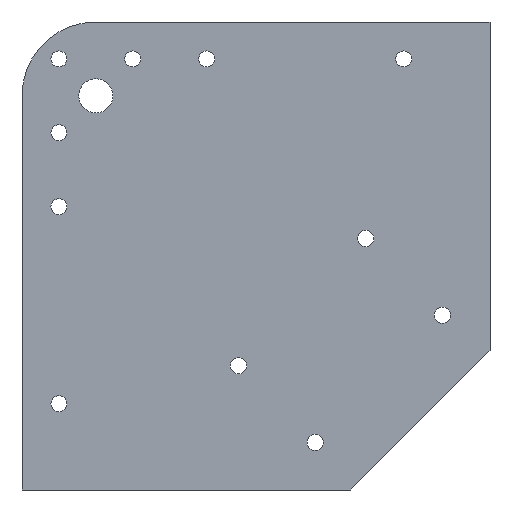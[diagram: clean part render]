
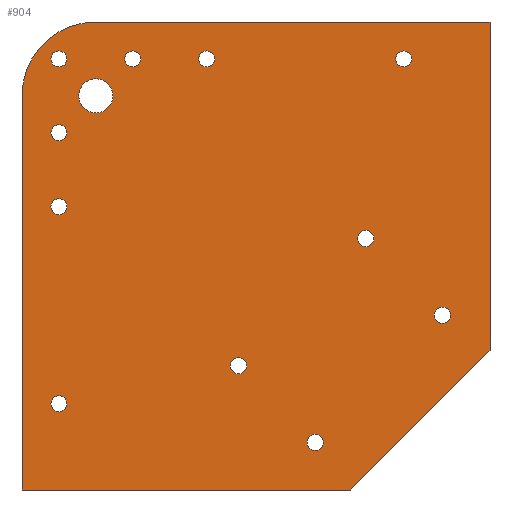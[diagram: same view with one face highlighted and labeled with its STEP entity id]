
A CAD part, front view. The second image highlights one B-rep face of the part: STEP entity #904.
In plain terms, the highlighted planar face has unit normal (0, -1, 0).
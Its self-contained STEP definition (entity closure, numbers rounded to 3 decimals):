
#34=LINE('',#1317,#62);
#36=LINE('',#1321,#64);
#37=LINE('',#1326,#65);
#38=LINE('',#1328,#66);
#39=LINE('',#1329,#67);
#62=VECTOR('',#1151,1000.);
#64=VECTOR('',#1155,1000.);
#65=VECTOR('',#1158,1000.);
#66=VECTOR('',#1159,1000.);
#67=VECTOR('',#1160,1000.);
#89=PLANE('',#986);
#175=ORIENTED_EDGE('',*,*,#231,.T.);
#176=ORIENTED_EDGE('',*,*,#233,.T.);
#177=ORIENTED_EDGE('',*,*,#235,.T.);
#178=ORIENTED_EDGE('',*,*,#237,.T.);
#179=ORIENTED_EDGE('',*,*,#239,.T.);
#180=ORIENTED_EDGE('',*,*,#244,.T.);
#181=ORIENTED_EDGE('',*,*,#248,.T.);
#182=ORIENTED_EDGE('',*,*,#252,.T.);
#183=ORIENTED_EDGE('',*,*,#256,.T.);
#184=ORIENTED_EDGE('',*,*,#260,.T.);
#185=ORIENTED_EDGE('',*,*,#264,.T.);
#186=ORIENTED_EDGE('',*,*,#268,.T.);
#187=ORIENTED_EDGE('',*,*,#285,.T.);
#188=ORIENTED_EDGE('',*,*,#286,.T.);
#189=ORIENTED_EDGE('',*,*,#287,.T.);
#190=ORIENTED_EDGE('',*,*,#288,.T.);
#191=ORIENTED_EDGE('',*,*,#283,.T.);
#192=ORIENTED_EDGE('',*,*,#289,.T.);
#231=EDGE_CURVE('',#299,#299,#357,.T.);
#233=EDGE_CURVE('',#301,#301,#359,.T.);
#235=EDGE_CURVE('',#303,#303,#361,.T.);
#237=EDGE_CURVE('',#305,#305,#363,.T.);
#239=EDGE_CURVE('',#307,#307,#365,.T.);
#244=EDGE_CURVE('',#312,#312,#370,.T.);
#248=EDGE_CURVE('',#316,#316,#374,.T.);
#252=EDGE_CURVE('',#320,#320,#378,.T.);
#256=EDGE_CURVE('',#324,#324,#382,.T.);
#260=EDGE_CURVE('',#328,#328,#386,.T.);
#264=EDGE_CURVE('',#332,#332,#390,.T.);
#268=EDGE_CURVE('',#336,#336,#394,.T.);
#283=EDGE_CURVE('',#348,#347,#34,.T.);
#285=EDGE_CURVE('',#349,#350,#36,.T.);
#286=EDGE_CURVE('',#350,#351,#395,.F.);
#287=EDGE_CURVE('',#351,#352,#37,.T.);
#288=EDGE_CURVE('',#352,#348,#38,.T.);
#289=EDGE_CURVE('',#347,#349,#39,.T.);
#299=VERTEX_POINT('',#1186);
#301=VERTEX_POINT('',#1191);
#303=VERTEX_POINT('',#1196);
#305=VERTEX_POINT('',#1201);
#307=VERTEX_POINT('',#1206);
#312=VERTEX_POINT('',#1219);
#316=VERTEX_POINT('',#1230);
#320=VERTEX_POINT('',#1241);
#324=VERTEX_POINT('',#1252);
#328=VERTEX_POINT('',#1263);
#332=VERTEX_POINT('',#1274);
#336=VERTEX_POINT('',#1285);
#347=VERTEX_POINT('',#1316);
#348=VERTEX_POINT('',#1318);
#349=VERTEX_POINT('',#1322);
#350=VERTEX_POINT('',#1323);
#351=VERTEX_POINT('',#1325);
#352=VERTEX_POINT('',#1327);
#357=CIRCLE('',#917,3.324);
#359=CIRCLE('',#920,3.324);
#361=CIRCLE('',#923,3.324);
#363=CIRCLE('',#926,3.324);
#365=CIRCLE('',#929,6.918);
#370=CIRCLE('',#937,3.25);
#374=CIRCLE('',#944,3.25);
#378=CIRCLE('',#951,3.25);
#382=CIRCLE('',#958,3.25);
#386=CIRCLE('',#965,3.25);
#390=CIRCLE('',#972,3.25);
#394=CIRCLE('',#979,3.25);
#395=CIRCLE('',#987,30.);
#459=EDGE_LOOP('',(#175));
#460=EDGE_LOOP('',(#176));
#461=EDGE_LOOP('',(#177));
#462=EDGE_LOOP('',(#178));
#463=EDGE_LOOP('',(#179));
#464=EDGE_LOOP('',(#180));
#465=EDGE_LOOP('',(#181));
#466=EDGE_LOOP('',(#182));
#467=EDGE_LOOP('',(#183));
#468=EDGE_LOOP('',(#184));
#469=EDGE_LOOP('',(#185));
#470=EDGE_LOOP('',(#186));
#471=EDGE_LOOP('',(#187,#188,#189,#190,#191,#192));
#549=FACE_BOUND('',#459,.T.);
#550=FACE_BOUND('',#460,.T.);
#551=FACE_BOUND('',#461,.T.);
#552=FACE_BOUND('',#462,.T.);
#553=FACE_BOUND('',#463,.T.);
#554=FACE_BOUND('',#464,.T.);
#555=FACE_BOUND('',#465,.T.);
#556=FACE_BOUND('',#466,.T.);
#557=FACE_BOUND('',#467,.T.);
#558=FACE_BOUND('',#468,.T.);
#559=FACE_BOUND('',#469,.T.);
#560=FACE_BOUND('',#470,.T.);
#561=FACE_BOUND('',#471,.T.);
#904=ADVANCED_FACE('',(#549,#550,#551,#552,#553,#554,#555,#556,#557,#558,
#559,#560,#561),#89,.F.);
#917=AXIS2_PLACEMENT_3D('',#1185,#999,#1000);
#920=AXIS2_PLACEMENT_3D('',#1190,#1005,#1006);
#923=AXIS2_PLACEMENT_3D('',#1195,#1011,#1012);
#926=AXIS2_PLACEMENT_3D('',#1200,#1017,#1018);
#929=AXIS2_PLACEMENT_3D('',#1205,#1023,#1024);
#937=AXIS2_PLACEMENT_3D('',#1218,#1039,#1040);
#944=AXIS2_PLACEMENT_3D('',#1229,#1053,#1054);
#951=AXIS2_PLACEMENT_3D('',#1240,#1067,#1068);
#958=AXIS2_PLACEMENT_3D('',#1251,#1081,#1082);
#965=AXIS2_PLACEMENT_3D('',#1262,#1095,#1096);
#972=AXIS2_PLACEMENT_3D('',#1273,#1109,#1110);
#979=AXIS2_PLACEMENT_3D('',#1284,#1123,#1124);
#986=AXIS2_PLACEMENT_3D('',#1320,#1153,#1154);
#987=AXIS2_PLACEMENT_3D('',#1324,#1156,#1157);
#999=DIRECTION('',(0.,1.,0.));
#1000=DIRECTION('',(1.,0.,0.));
#1005=DIRECTION('',(0.,1.,0.));
#1006=DIRECTION('',(1.,0.,0.));
#1011=DIRECTION('',(0.,1.,0.));
#1012=DIRECTION('',(1.,0.,0.));
#1017=DIRECTION('',(0.,1.,0.));
#1018=DIRECTION('',(1.,0.,0.));
#1023=DIRECTION('',(0.,1.,0.));
#1024=DIRECTION('',(1.,0.,0.));
#1039=DIRECTION('',(0.,1.,0.));
#1040=DIRECTION('',(1.,0.,0.));
#1053=DIRECTION('',(0.,1.,0.));
#1054=DIRECTION('',(1.,0.,0.));
#1067=DIRECTION('',(0.,1.,0.));
#1068=DIRECTION('',(1.,0.,0.));
#1081=DIRECTION('',(0.,1.,0.));
#1082=DIRECTION('',(1.,0.,0.));
#1095=DIRECTION('',(0.,1.,0.));
#1096=DIRECTION('',(1.,0.,0.));
#1109=DIRECTION('',(0.,1.,0.));
#1110=DIRECTION('',(1.,0.,0.));
#1123=DIRECTION('',(0.,1.,0.));
#1124=DIRECTION('',(1.,0.,0.));
#1151=DIRECTION('',(0.707,0.,0.707));
#1153=DIRECTION('',(0.,1.,0.));
#1154=DIRECTION('',(0.,0.,1.));
#1155=DIRECTION('',(-1.,0.,0.));
#1156=DIRECTION('',(0.,1.,0.));
#1157=DIRECTION('',(0.,0.,1.));
#1158=DIRECTION('',(0.,0.,-1.));
#1159=DIRECTION('',(1.,0.,0.));
#1160=DIRECTION('',(0.,0.,1.));
#1185=CARTESIAN_POINT('',(24.032,0.,-75.651));
#1186=CARTESIAN_POINT('',(20.708,0.,-75.651));
#1190=CARTESIAN_POINT('',(-7.081,0.,-44.538));
#1191=CARTESIAN_POINT('',(-10.404,0.,-44.538));
#1195=CARTESIAN_POINT('',(44.538,0.,7.081));
#1196=CARTESIAN_POINT('',(41.214,0.,7.081));
#1200=CARTESIAN_POINT('',(75.651,0.,-24.032));
#1201=CARTESIAN_POINT('',(72.327,0.,-24.032));
#1205=CARTESIAN_POINT('',(-65.,0.,65.));
#1206=CARTESIAN_POINT('',(-71.918,0.,65.));
#1218=CARTESIAN_POINT('',(-80.,0.,20.));
#1219=CARTESIAN_POINT('',(-83.25,0.,20.));
#1229=CARTESIAN_POINT('',(60.,0.,80.));
#1230=CARTESIAN_POINT('',(56.75,0.,80.));
#1240=CARTESIAN_POINT('',(-50.,0.,80.));
#1241=CARTESIAN_POINT('',(-53.25,0.,80.));
#1251=CARTESIAN_POINT('',(-80.,0.,80.));
#1252=CARTESIAN_POINT('',(-83.25,0.,80.));
#1262=CARTESIAN_POINT('',(-20.,0.,80.));
#1263=CARTESIAN_POINT('',(-23.25,0.,80.));
#1273=CARTESIAN_POINT('',(-80.,0.,50.));
#1274=CARTESIAN_POINT('',(-83.25,0.,50.));
#1284=CARTESIAN_POINT('',(-80.,0.,-60.));
#1285=CARTESIAN_POINT('',(-83.25,0.,-60.));
#1316=CARTESIAN_POINT('',(95.,0.,-38.482));
#1317=CARTESIAN_POINT('',(80.871,0.,-52.612));
#1318=CARTESIAN_POINT('',(38.482,0.,-95.));
#1320=CARTESIAN_POINT('',(0.,0.,0.));
#1321=CARTESIAN_POINT('',(95.,0.,95.));
#1322=CARTESIAN_POINT('',(95.,0.,95.));
#1323=CARTESIAN_POINT('',(-65.,0.,95.));
#1324=CARTESIAN_POINT('',(-65.,0.,65.));
#1325=CARTESIAN_POINT('',(-95.,0.,65.));
#1326=CARTESIAN_POINT('',(-95.,0.,95.));
#1327=CARTESIAN_POINT('',(-95.,0.,-95.));
#1328=CARTESIAN_POINT('',(-95.,0.,-95.));
#1329=CARTESIAN_POINT('',(95.,0.,-95.));
